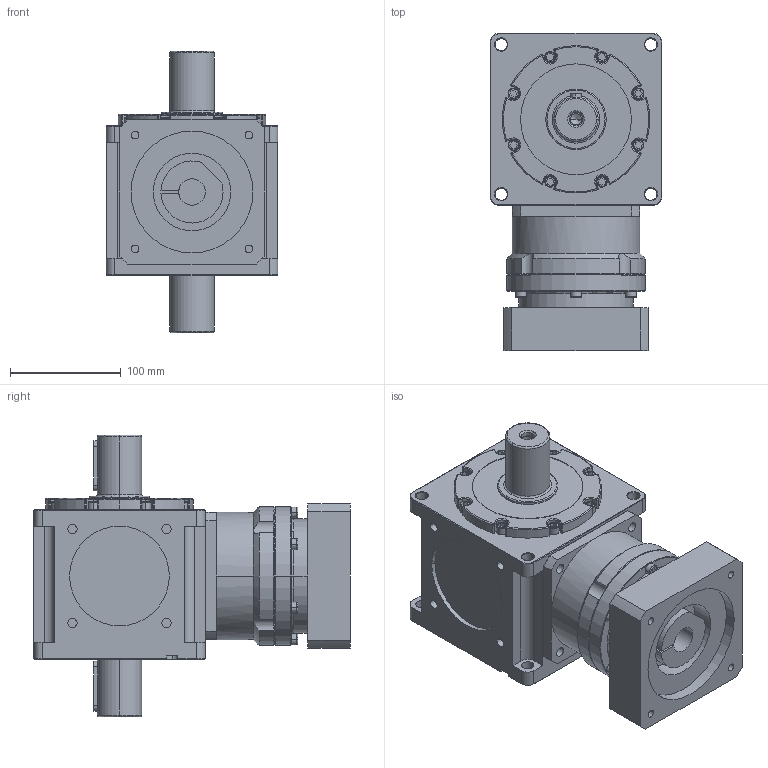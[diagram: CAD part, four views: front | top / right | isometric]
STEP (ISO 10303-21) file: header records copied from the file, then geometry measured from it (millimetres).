
FILE_DESCRIPTION (( 'STEP AP214' ), '1' );
FILE_NAME ('CCW155A-L1(6~20)-2P 24-110-145-M8.STEP', '2025-05-24T07:27:26', ( '微软用户' ), ( '微软中国' ), 'SwSTEP 2.0', 'SolidWorks 2024', '' );
FILE_SCHEMA (( 'AUTOMOTIVE_DESIGN' ));
Length unit declared in the file: millimetre
Products named in the file (3): CCW155A-L1(6~20)-2P 24-110-145-M8; CCW155A-002-2P箱体; VRB-115-L1-S2-P1 24-110-145-M8
Assembly tree (2 placements, depth 2):
  CCW155A-L1(6~20)-2P 24-110-145-M8
    CCW155A-002-2P箱体
    VRB-115-L1-S2-P1 24-110-145-M8
Bounding box: 155 x 286 x 254 mm (x, y, z)
Volume: 4840845.1 mm3; surface area: 304418.7 mm2
Topology: 2 solids, 2 shells, 663 faces, 1563 edges, 951 vertices
Faces by surface type: plane 256, cylinder 246, cone 76, torus 69, sphere 16
Entity records: 19426 total; most frequent: CARTESIAN_POINT 3669, DIRECTION 3560, ORIENTED_EDGE 3082, EDGE_CURVE 1541, AXIS2_PLACEMENT_3D 1396, VERTEX_POINT 951, LINE 768, VECTOR 768
